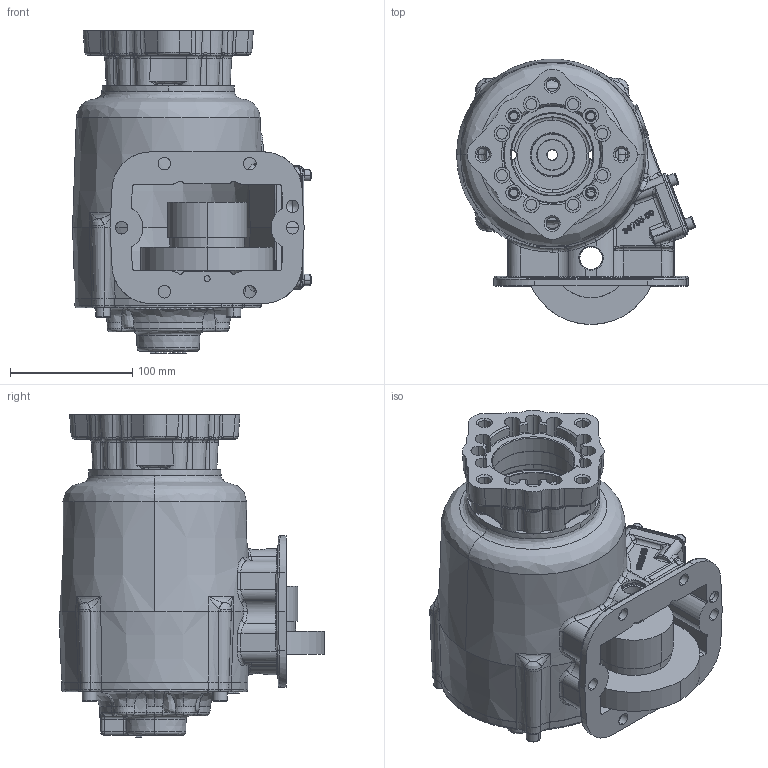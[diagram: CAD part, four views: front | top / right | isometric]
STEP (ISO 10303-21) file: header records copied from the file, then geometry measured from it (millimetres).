
FILE_DESCRIPTION (( 'STEP AP203' ), '1' );
FILE_NAME ('CS6S-XXXXX-X3DX.STEP', '2011-11-29T19:16:39', ( 'User' ), ( 'Muncie Power Products, Inc.' ), 'SwSTEP 2.0', 'SolidWorks 2011', '' );
FILE_SCHEMA (( 'CONFIG_CONTROL_DESIGN' ));
Length unit declared in the file: inch
Products named in the file (3): CS6S-XXXXX-X3DX; 14T39406-1
Assembly tree (2 placements, depth 2):
  CS6S-XXXXX-X3DX
    CS6S-XXXXX-X3DX
    14T39406-1
Bounding box: 195.33 x 216.75 x 263.71 mm (x, y, z)
Volume: 1531883.9 mm3; surface area: 411504.7 mm2
Topology: 13 solids, 13 shells, 2271 faces, 5828 edges, 3621 vertices
Faces by surface type: bspline 933, cylinder 450, plane 449, cone 325, torus 101, sphere 13
Entity records: 154997 total; most frequent: CARTESIAN_POINT 106783, ORIENTED_EDGE 11524, DIRECTION 7306, EDGE_CURVE 5762, VERTEX_POINT 3621, AXIS2_PLACEMENT_3D 2662, EDGE_LOOP 2479, B_SPLINE_CURVE_WITH_KNOTS 2352
